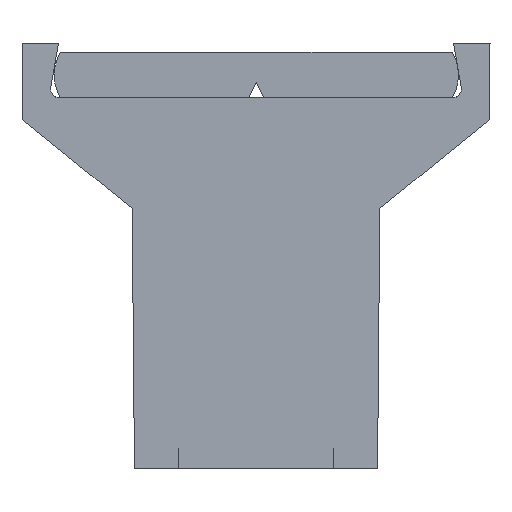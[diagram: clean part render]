
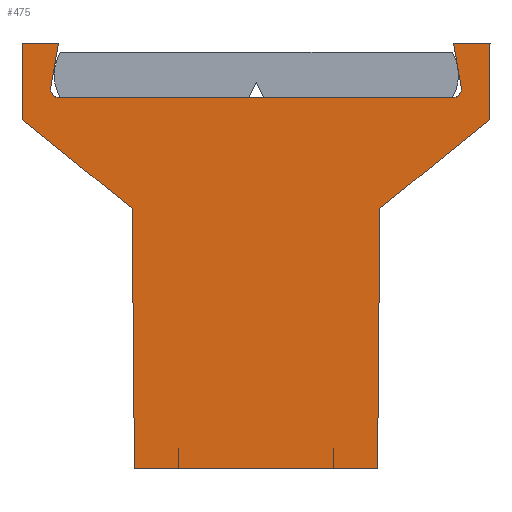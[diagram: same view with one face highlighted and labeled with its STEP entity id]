
A CAD part, left-side view. The second image highlights one B-rep face of the part: STEP entity #475.
In plain terms, the highlighted planar face has unit normal (-1, 0, -0.009).
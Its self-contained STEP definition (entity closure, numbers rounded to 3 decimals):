
#475=ADVANCED_FACE('Fl_che4',(#1292),#1293,.T.);
#1292=FACE_OUTER_BOUND('',#2413,.T.);
#1293=PLANE('',#2414);
#2413=EDGE_LOOP('',(#3973,#3974,#3975,#3976,#3977,#3978,#3979,#3980,#3981,#3982,#3983,#3984,#3985,#3986));
#2414=AXIS2_PLACEMENT_3D('',#3987,#3988,#3989);
#3973=ORIENTED_EDGE('',*,*,#6716,.T.);
#3974=ORIENTED_EDGE('',*,*,#6762,.T.);
#3975=ORIENTED_EDGE('',*,*,#6763,.T.);
#3976=ORIENTED_EDGE('',*,*,#6733,.F.);
#3977=ORIENTED_EDGE('',*,*,#6753,.F.);
#3978=ORIENTED_EDGE('',*,*,#6757,.F.);
#3979=ORIENTED_EDGE('',*,*,#6760,.F.);
#3980=ORIENTED_EDGE('',*,*,#6496,.F.);
#3981=ORIENTED_EDGE('',*,*,#6737,.F.);
#3982=ORIENTED_EDGE('',*,*,#6741,.F.);
#3983=ORIENTED_EDGE('',*,*,#6745,.F.);
#3984=ORIENTED_EDGE('',*,*,#6748,.F.);
#3985=ORIENTED_EDGE('',*,*,#6764,.T.);
#3986=ORIENTED_EDGE('',*,*,#6765,.T.);
#3987=CARTESIAN_POINT('',(-105.96,7.7,14.0));
#3988=DIRECTION('',(-1.,0.,-0.009));
#3989=DIRECTION('',(-0.009,0.0,1.));
#6496=EDGE_CURVE('NONE',#7845,#7847,#7848,.T.);
#6716=EDGE_CURVE('NONE',#8221,#8242,#8244,.T.);
#6733=EDGE_CURVE('NONE',#8271,#8266,#8273,.T.);
#6737=EDGE_CURVE('NONE',#8277,#7845,#8279,.T.);
#6741=EDGE_CURVE('NONE',#8283,#8277,#8285,.T.);
#6745=EDGE_CURVE('NONE',#8289,#8283,#8291,.T.);
#6748=EDGE_CURVE('NONE',#8293,#8289,#8296,.T.);
#6753=EDGE_CURVE('NONE',#8301,#8271,#8303,.T.);
#6757=EDGE_CURVE('NONE',#8307,#8301,#8309,.T.);
#6760=EDGE_CURVE('NONE',#7847,#8307,#8312,.T.);
#6762=EDGE_CURVE('NONE',#8242,#8314,#8315,.T.);
#6763=EDGE_CURVE('NONE',#8314,#8266,#8316,.T.);
#6764=EDGE_CURVE('NONE',#8293,#8317,#8318,.T.);
#6765=EDGE_CURVE('NONE',#8317,#8221,#8319,.T.);
#7845=VERTEX_POINT('NONE',#9712);
#7847=VERTEX_POINT('NONE',#9715);
#7848=LINE('',#9716,#9717);
#8221=VERTEX_POINT('NONE',#10255);
#8242=VERTEX_POINT('NONE',#10286);
#8244=LINE('',#10289,#10290);
#8266=VERTEX_POINT('NONE',#10322);
#8271=VERTEX_POINT('NONE',#10329);
#8273=LINE('',#10332,#10333);
#8277=VERTEX_POINT('NONE',#10338);
#8279=LINE('',#10341,#10342);
#8283=VERTEX_POINT('NONE',#10347);
#8285=LINE('',#10350,#10351);
#8289=VERTEX_POINT('NONE',#10356);
#8291=LINE('',#10359,#10360);
#8293=VERTEX_POINT('NONE',#10362);
#8296=LINE('',#10366,#10367);
#8301=VERTEX_POINT('NONE',#10374);
#8303=LINE('',#10377,#10378);
#8307=VERTEX_POINT('NONE',#10383);
#8309=LINE('',#10386,#10387);
#8312=LINE('',#10391,#10392);
#8314=VERTEX_POINT('NONE',#10394);
#8315=(B_SPLINE_CURVE(3,(#10396,#10397,#10398,#10399),.UNSPECIFIED.,.F.,.F.)B_SPLINE_CURVE_WITH_KNOTS((4,4),(3.142,4.887),.UNSPECIFIED.)RATIONAL_B_SPLINE_CURVE((1.0,0.762,0.762,1.0))BOUNDED_CURVE()REPRESENTATION_ITEM('')GEOMETRIC_REPRESENTATION_ITEM()CURVE());
#8316=LINE('',#10406,#10407);
#8317=VERTEX_POINT('NONE',#10408);
#8318=LINE('',#10409,#10410);
#8319=(B_SPLINE_CURVE(3,(#10412,#10413,#10414,#10415),.UNSPECIFIED.,.F.,.F.)B_SPLINE_CURVE_WITH_KNOTS((4,4),(1.396,3.142),.UNSPECIFIED.)RATIONAL_B_SPLINE_CURVE((1.0,0.762,0.762,1.0))BOUNDED_CURVE()REPRESENTATION_ITEM('')GEOMETRIC_REPRESENTATION_ITEM()CURVE());
#9712=CARTESIAN_POINT('',(-105.838,-4.0,0.0));
#9715=CARTESIAN_POINT('',(-105.838,4.0,0.0));
#9716=CARTESIAN_POINT('',(-105.838,-4.0,0.0));
#9717=VECTOR('',#12098,1000.0);
#10255=CARTESIAN_POINT('',(-105.944,-6.46,12.2));
#10286=CARTESIAN_POINT('',(-105.944,6.46,12.2));
#10289=CARTESIAN_POINT('',(-105.944,6.817,12.2));
#10290=VECTOR('',#12398,1000.0);
#10322=CARTESIAN_POINT('',(-105.96,6.5,14.0));
#10329=CARTESIAN_POINT('',(-105.96,7.7,14.0));
#10332=CARTESIAN_POINT('',(-105.96,7.7,14.0));
#10333=VECTOR('',#12412,1000.0);
#10338=CARTESIAN_POINT('',(-105.913,-4.075,8.561));
#10341=CARTESIAN_POINT('',(-105.838,-4.,0.001));
#10342=VECTOR('',#12415,1000.0);
#10347=CARTESIAN_POINT('',(-105.938,-7.678,11.482));
#10350=CARTESIAN_POINT('',(-105.938,-7.7,11.5));
#10351=VECTOR('',#12418,1000.0);
#10356=CARTESIAN_POINT('',(-105.96,-7.7,14.0));
#10359=CARTESIAN_POINT('',(-105.96,-7.7,14.0));
#10360=VECTOR('',#12421,1000.0);
#10362=CARTESIAN_POINT('',(-105.96,-6.5,14.0));
#10366=CARTESIAN_POINT('',(-105.96,7.7,14.0));
#10367=VECTOR('',#12423,1000.0);
#10374=CARTESIAN_POINT('',(-105.938,7.678,11.482));
#10377=CARTESIAN_POINT('',(-105.96,7.7,14.0));
#10378=VECTOR('',#12427,1000.0);
#10383=CARTESIAN_POINT('',(-105.913,4.075,8.561));
#10386=CARTESIAN_POINT('',(-105.912,4.,8.5));
#10387=VECTOR('',#12430,1000.0);
#10391=CARTESIAN_POINT('',(-105.838,4.,0.001));
#10392=VECTOR('',#12432,1000.0);
#10394=CARTESIAN_POINT('',(-105.947,6.755,12.552));
#10396=CARTESIAN_POINT('',(-105.944,6.46,12.2));
#10397=CARTESIAN_POINT('',(-105.944,6.661,12.2));
#10398=CARTESIAN_POINT('',(-105.946,6.79,12.354));
#10399=CARTESIAN_POINT('',(-105.947,6.755,12.552));
#10406=CARTESIAN_POINT('',(-105.96,6.5,14.0));
#10407=VECTOR('',#12433,1000.0);
#10408=CARTESIAN_POINT('',(-105.947,-6.755,12.552));
#10409=CARTESIAN_POINT('',(-105.944,-6.817,12.2));
#10410=VECTOR('',#12434,1000.0);
#10412=CARTESIAN_POINT('',(-105.947,-6.755,12.552));
#10413=CARTESIAN_POINT('',(-105.946,-6.79,12.354));
#10414=CARTESIAN_POINT('',(-105.944,-6.661,12.2));
#10415=CARTESIAN_POINT('',(-105.944,-6.46,12.2));
#12098=DIRECTION('',(0.,1.0,0.));
#12398=DIRECTION('',(0.,1.0,0.));
#12412=DIRECTION('',(0.0,-1.0,0.));
#12415=DIRECTION('',(0.009,0.009,-1.));
#12418=DIRECTION('',(0.005,0.777,-0.63));
#12421=DIRECTION('',(0.009,0.009,-1.));
#12423=DIRECTION('',(0.0,-1.0,0.));
#12427=DIRECTION('',(-0.009,0.009,1.));
#12430=DIRECTION('',(-0.005,0.777,0.63));
#12432=DIRECTION('',(-0.009,0.009,1.));
#12433=DIRECTION('',(-0.009,-0.174,0.985));
#12434=DIRECTION('',(0.009,-0.174,-0.985));
